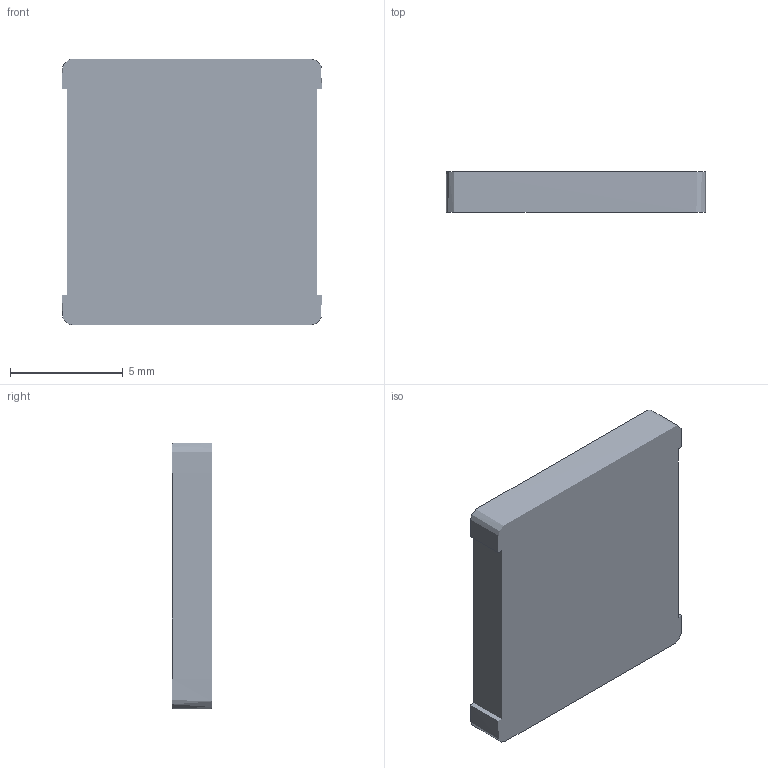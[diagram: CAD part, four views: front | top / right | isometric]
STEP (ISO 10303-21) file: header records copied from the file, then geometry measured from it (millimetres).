
FILE_DESCRIPTION(/* description */ ('STEP AP242 Edition 2','CAx-IF Rec.Pracs.---Representation and Presentation of Product Manufacturing Information (PMI)---4.0---2014-10-13','CAx-IF Rec.Pracs.---3D Tessellated Geometry---0.4---2014-09-14','2;1','CAx-IF Rec.Pracs.---User Defined Attributes---1.5---2016-08-15'),/* implementation_level */ '2;1');
FILE_NAME(/* name */ 'Assembly 1 - Part 14',/* time_stamp */ '2026-03-29T21:14:57Z',/* author */ (''),/* organization */ (''),/* preprocessor_version */ 'ST-DEVELOPER v20',/* originating_system */ 'ONSHAPE BY PTC INC, 1.212',/* authorisation */ ' ');
FILE_SCHEMA (('AP242_MANAGED_MODEL_BASED_3D_ENGINEERING_MIM_LF { 1 0 10303 442 3 1 4 }'));
Length unit declared in the file: metre
Products named in the file (1): Part 14
Bounding box: 11.52 x 1.76 x 11.8 mm (x, y, z)
Surface area: 345.4 mm2 (no closed solid volume)
Topology: 0 solids, 1 shells, 1 faces, 0 edges, 0 vertices
Faces by surface type: other 1
Entity records: 31 total; most frequent: DIRECTION 2, SHAPE_REPRESENTATION_RELATIONSHIP 1, TESSELLATED_SHAPE_REPRESENTATION 1, STYLED_ITEM 1, PRESENTATION_STYLE_ASSIGNMENT 1, SURFACE_STYLE_USAGE 1, SURFACE_SIDE_STYLE 1, SURFACE_STYLE_FILL_AREA 1
